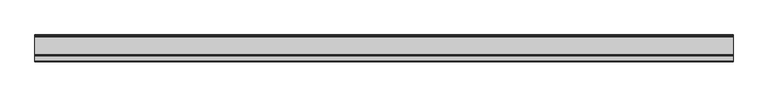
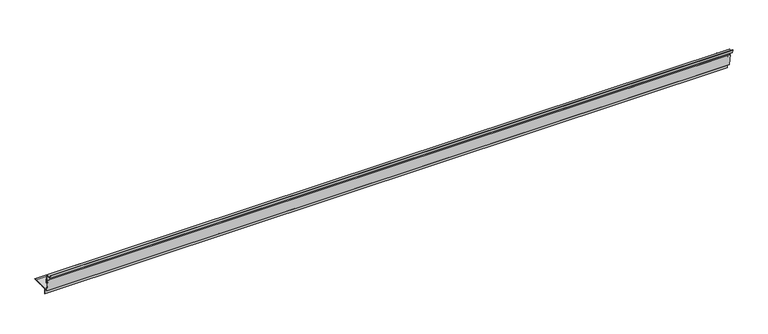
"""IFC4 building model written with IfcOpenShell, lengths in millimetres: proxy geometry, ATELIERS 3S_PARISIENNE 1000_VENTILATED RIDGE AGAINST WALL : ATELIERS 3S_PARISIENNE 1000_VENTILATED RIDGE AGAINST WALL."""

from ifc_helpers import new_model, si_unit, point, frame, frame_2d, origin, place, context, project, spatial, polyline, circle_curve, trimmed, segment, composite_curve, outline, extrude, source, transform, mapped, element, save


def generic_models_857463d3(model_context):
    return source(origin(), model_context, "Body", "SweptSolid", [
        extrude(outline(polyline([(21.4470692, -45.6836511), (21.4470692, -0.6836511), (61.4470692, -0.6836511), (61.4470692, -1.6836511), (22.4470692, -1.6836511), (22.4470692, -45.6836511), (21.4470692, -45.6836511)])), frame((0.0, 0.0, 0.0), z_axis=(1.0, 0.0, 0.0), x_axis=(0.0, 1.0, 0.0)), (0.0, 0.0, 1.0), 5661.0),
        extrude(outline(composite_curve([segment(trimmed(circle_curve(frame_2d((-0.6113232, 65.7209859)), 1.3755384), [point((0.7433177, 65.9598456))], [point((-1.6650468, 64.8368068))], False, "CARTESIAN"), True, "CONTINUOUS"), segment(polyline([(-1.6650468, 64.8368068), (-9.292635, 73.9270124), (-8.5265905, 74.5698), (-0.8990024, 65.4795944)]), True, "CONTINUOUS"), segment(trimmed(circle_curve(frame_2d((-0.6113232, 65.7209859)), 0.3755384), [point((-0.8990024, 65.4795944))], [point((-0.2414901, 65.7861974))], True, "CARTESIAN"), True, "CONTINUOUS"), segment(polyline([(-0.2414901, 65.7861974), (-13.1023209, 138.7235936), (-52.494631, 131.7776665), (-57.1831318, 158.3674758), (-56.1983241, 158.541124), (-51.6834715, 132.9361224), (-12.2911613, 139.8820495), (0.7433177, 65.9598456)]), True, "CONTINUOUS")], self_intersect=False)), frame((0.0, 0.0, 0.0), z_axis=(1.0, 0.0, 0.0), x_axis=(0.0, 1.0, 0.0)), (0.0, 0.0, 1.0), 5661.0),
        extrude(outline(composite_curve([segment(trimmed(circle_curve(frame_2d((159.9786518, -0.6836511)), 1.0), [point((159.9786518, 0.3163489))], [point((159.9786518, -1.6836511))], False, "CARTESIAN"), True, "CONTINUOUS"), segment(polyline([(159.9786518, -1.6836511), (144.9786518, -1.6836511)]), True, "CONTINUOUS"), segment(trimmed(circle_curve(frame_2d((144.9786518, -1.1836511)), 0.5), [point((144.9786518, -1.6836511))], [point((144.9786518, -0.6836511))], False, "CARTESIAN"), True, "CONTINUOUS"), segment(polyline([(144.9786518, -0.6836511), (-8.8295946, -0.6836511), (-26.3680606, 98.7819319), (-25.3832528, 98.9555801), (-7.990495, 0.3163489), (159.9786518, 0.3163489)]), True, "CONTINUOUS")], self_intersect=False)), frame((0.0, 0.0, 0.0), z_axis=(1.0, 0.0, 0.0), x_axis=(0.0, 1.0, 0.0)), (0.0, 0.0, 1.0), 5661.0),
    ])


if __name__ == "__main__":
    model = new_model("IFC4")
    model_context = context("Model", 3, world=origin())
    ifc_project = project(units=[si_unit("LENGTHUNIT", "METRE", prefix="MILLI")], contexts=[model_context])
    site = spatial("IfcSite", under=ifc_project)
    building = spatial("IfcBuilding", under=site)
    placement = place(None, origin())
    generic_models_shape = generic_models_857463d3(model_context)
    element("IfcBuildingElementProxy", 1, Name="ATELIERS 3S_PARISIENNE 1000_VENTILATED RIDGE AGAINST WALL : ATELIERS 3S_PARISIENNE 1000_VENTILATED RIDGE AGAINST WALL", ObjectType="ATELIERS 3S_PARISIENNE 1000_VENTILATED RIDGE AGAINST WALL : ATELIERS 3S_PARISIENNE 1000_VENTILATED RIDGE AGAINST WALL", at=placement, inside=building, context=model_context, shape_type="MappedRepresentation", body=[
        mapped(generic_models_shape, transform((0.0, 0.0, 0.0), x_axis=(1.0, 0.0, 0.0), y_axis=(0.0, 1.0, 0.0), z_axis=(0.0, 0.0, 1.0))),
    ])
    save(model, "model.ifc")
